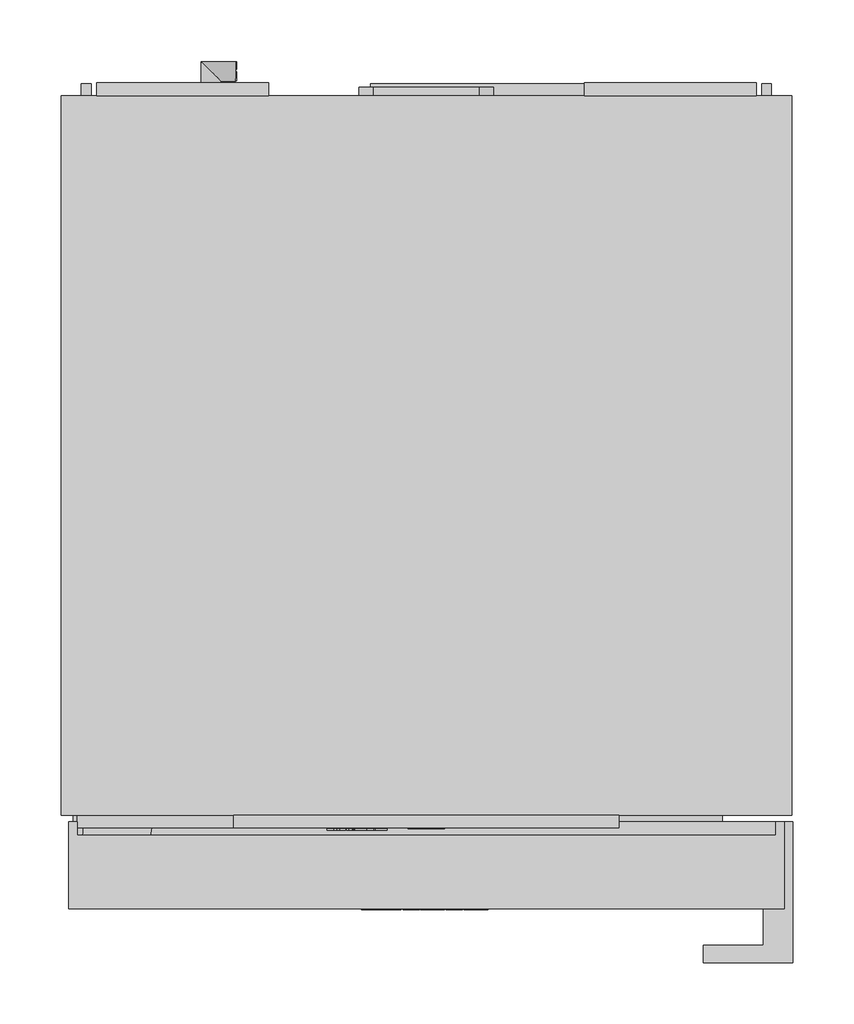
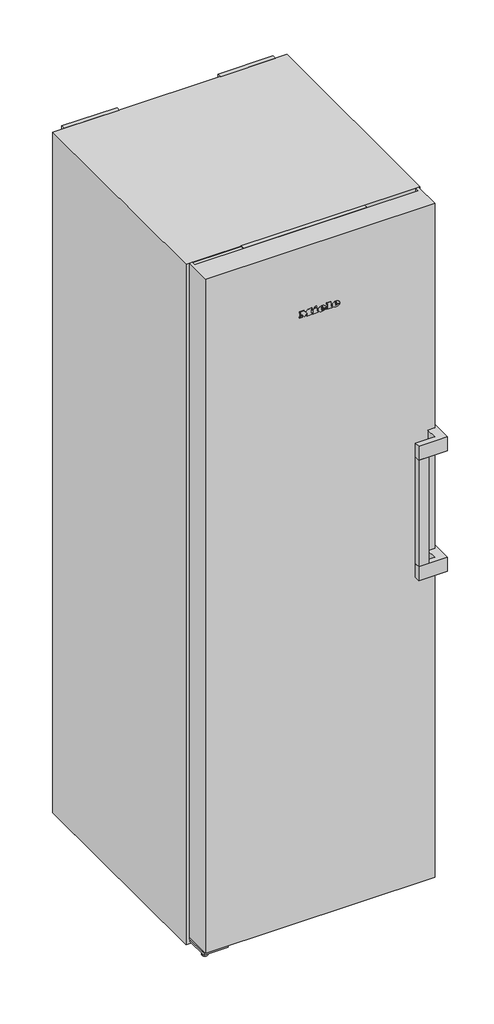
# Not in any storey: 1 proxy.
"""IFC4 building model written with IfcOpenShell, lengths in millimetres."""

from ifc_helpers import new_model, si_unit, origin, place, context, project, spatial, transform, mapped, element, save
from components import specialty_equipment_5bcbbda8

model = new_model("IFC4")

# Units and contexts
model_context = context("Model", 3, world=origin())
ifc_project = project(units=[si_unit("LENGTHUNIT", "METRE", prefix="MILLI")], contexts=[model_context])

# Site, building
site = spatial("IfcSite", under=ifc_project)
building = spatial("IfcBuilding", under=site)

# Proxy
placement = place(None, origin())
specialty_equipment_shape = specialty_equipment_5bcbbda8(model_context)
element("IfcBuildingElementProxy", 1, Name="12112990_J_FNS4782E_EDTCS : 37478250_J_12112990_FNS4782E_EDTCS", ObjectType="12112990_J_FNS4782E_EDTCS : 37478250_J_12112990_FNS4782E_EDTCS", at=placement, inside=building, context=model_context, shape_type="MappedRepresentation", body=[
    mapped(specialty_equipment_shape, transform((0.0, 0.0, 0.0), x_axis=(1.0, 0.0, 0.0), y_axis=(0.0, 1.0, 0.0), z_axis=(0.0, 0.0, 1.0))),
])

save(model, "model.ifc")
